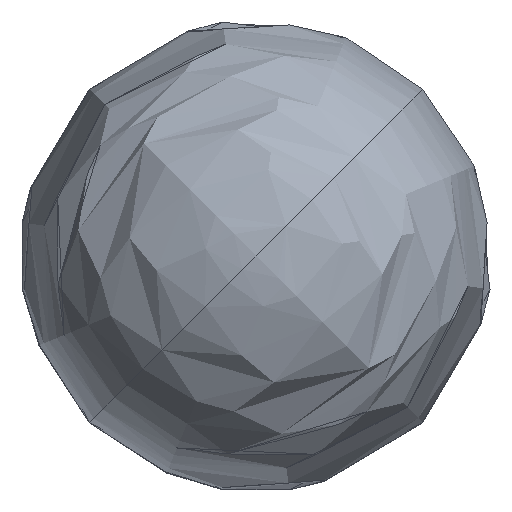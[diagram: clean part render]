
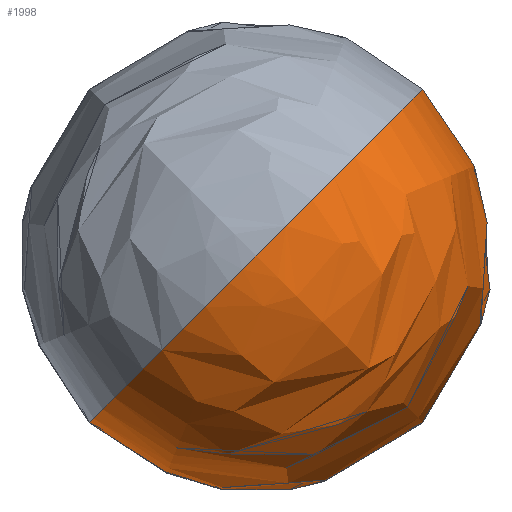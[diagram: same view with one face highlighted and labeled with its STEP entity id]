
A CAD part, front view. The second image highlights one B-rep face of the part: STEP entity #1998.
In plain terms, the highlighted free-form (B-spline) face has degree [3, 3] with [8, 4] control points.
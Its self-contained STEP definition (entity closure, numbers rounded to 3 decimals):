
#17 = B_SPLINE_CURVE_WITH_KNOTS ( 'NONE', 3,
 ( #2479, #2684, #163, #1583, #1500, #1539, #956, #1527 ),
 .UNSPECIFIED., .F., .F.,
 ( 4, 1, 1, 1, 1, 4 ),
 ( 0., 0.225, 0.267, 0.403, 0.478, 1. ),
 .UNSPECIFIED. ) ;
#69 =( BOUNDED_SURFACE ( )  B_SPLINE_SURFACE ( 3, 3, ( 
 ( #1852, #1253, #1113, #933 ),
 ( #1062, #813, #1257, #1078 ),
 ( #1674, #827, #1461, #954 ),
 ( #1066, #1005, #3028, #3027 ),
 ( #666, #681, #3322, #1167 ),
 ( #1180, #908, #977, #841 ),
 ( #3413, #3393, #349, #1858 ),
 ( #1090, #212, #413, #964 ) ),
 .UNSPECIFIED., .F., .F., .F. ) 
 B_SPLINE_SURFACE_WITH_KNOTS ( ( 4, 1, 1, 1, 1, 4 ),
 ( 4, 4 ),
 ( 0., 0.225, 0.267, 0.403, 0.478, 1. ),
 ( 0., 1. ),
 .UNSPECIFIED. ) 
 GEOMETRIC_REPRESENTATION_ITEM ( )  RATIONAL_B_SPLINE_SURFACE ( (
 ( 1., 0.333, 0.333, 1.),
 ( 1., 0.333, 0.333, 1.),
 ( 1., 0.333, 0.333, 1.),
 ( 1., 0.333, 0.333, 1.),
 ( 1., 0.333, 0.333, 1.),
 ( 1., 0.333, 0.333, 1.),
 ( 1., 0.333, 0.333, 1.),
 ( 1., 0.333, 0.333, 1.) ) ) 
 REPRESENTATION_ITEM ( '' )  SURFACE ( )  );
#105 = ORIENTED_EDGE ( 'NONE', *, *, #2629, .F. ) ;
#108 = CARTESIAN_POINT ( 'NONE',  ( -58.008, -2013.095, -58.008 ) ) ;
#163 = CARTESIAN_POINT ( 'NONE',  ( 46.388, -2080.434, 46.388 ) ) ;
#212 = CARTESIAN_POINT ( 'NONE',  ( 12.374, -1399., -37.123 ) ) ;
#349 = CARTESIAN_POINT ( 'NONE',  ( 37.123, -1711.185, -12.374 ) ) ;
#413 = CARTESIAN_POINT ( 'NONE',  ( 37.123, -1399., -12.374 ) ) ;
#496 = CARTESIAN_POINT ( 'NONE',  ( -46.388, -2080.434, -46.388 ) ) ;
#499 = CARTESIAN_POINT ( 'NONE',  ( -12.374, -1711.185, -12.374 ) ) ;
#651 = CARTESIAN_POINT ( 'NONE',  ( -12.374, -1399., -12.374 ) ) ;
#662 = CARTESIAN_POINT ( 'NONE',  ( -56.123, -1960.469, -56.123 ) ) ;
#666 = CARTESIAN_POINT ( 'NONE',  ( -56.123, -1960.469, -56.123 ) ) ;
#681 = CARTESIAN_POINT ( 'NONE',  ( 56.123, -1960.469, -168.368 ) ) ;
#682 = CARTESIAN_POINT ( 'NONE',  ( -41.673, -1825.568, -41.673 ) ) ;
#789 = CARTESIAN_POINT ( 'NONE',  ( -12.374, -1399., -12.374 ) ) ;
#812 = CARTESIAN_POINT ( 'NONE',  ( 0., -2099., 0. ) ) ;
#813 = CARTESIAN_POINT ( 'NONE',  ( 21.985, -2099., -65.955 ) ) ;
#820 = CARTESIAN_POINT ( 'NONE',  ( 0., -1399., -17.5 ) ) ;
#827 = CARTESIAN_POINT ( 'NONE',  ( 46.388, -2080.434, -139.163 ) ) ;
#841 = CARTESIAN_POINT ( 'NONE',  ( 41.673, -1825.568, 41.673 ) ) ;
#882 = CIRCLE ( 'NONE', #1013, 17.5 ) ;
#908 = CARTESIAN_POINT ( 'NONE',  ( 41.673, -1825.568, -125.018 ) ) ;
#933 = CARTESIAN_POINT ( 'NONE',  ( 0., -2099., 0. ) ) ;
#954 = CARTESIAN_POINT ( 'NONE',  ( 46.388, -2080.434, 46.388 ) ) ;
#956 = CARTESIAN_POINT ( 'NONE',  ( 12.374, -1711.185, 12.374 ) ) ;
#964 = CARTESIAN_POINT ( 'NONE',  ( 12.374, -1399., 12.374 ) ) ;
#977 = CARTESIAN_POINT ( 'NONE',  ( 125.018, -1825.568, -41.673 ) ) ;
#1005 = CARTESIAN_POINT ( 'NONE',  ( 58.008, -2013.095, -174.024 ) ) ;
#1013 = AXIS2_PLACEMENT_3D ( 'NONE', #1881, #1906, #2219 ) ;
#1053 = ORIENTED_EDGE ( 'NONE', *, *, #2423, .F. ) ;
#1062 = CARTESIAN_POINT ( 'NONE',  ( -21.985, -2099., -21.985 ) ) ;
#1066 = CARTESIAN_POINT ( 'NONE',  ( -58.008, -2013.095, -58.008 ) ) ;
#1078 = CARTESIAN_POINT ( 'NONE',  ( 21.985, -2099., 21.985 ) ) ;
#1090 = CARTESIAN_POINT ( 'NONE',  ( -12.374, -1399., -12.374 ) ) ;
#1113 = CARTESIAN_POINT ( 'NONE',  ( 0., -2099., 0. ) ) ;
#1167 = CARTESIAN_POINT ( 'NONE',  ( 56.123, -1960.469, 56.123 ) ) ;
#1180 = CARTESIAN_POINT ( 'NONE',  ( -41.673, -1825.568, -41.673 ) ) ;
#1253 = CARTESIAN_POINT ( 'NONE',  ( 0., -2099., 0. ) ) ;
#1257 = CARTESIAN_POINT ( 'NONE',  ( 65.955, -2099., -21.985 ) ) ;
#1379 = CIRCLE ( 'NONE', #3584, 17.5 ) ;
#1451 = FACE_OUTER_BOUND ( 'NONE', #1875, .T. ) ;
#1461 = CARTESIAN_POINT ( 'NONE',  ( 139.163, -2080.434, -46.388 ) ) ;
#1489 = B_SPLINE_CURVE_WITH_KNOTS ( 'NONE', 3,
 ( #789, #499, #682, #662, #108, #496, #3114, #3118 ),
 .UNSPECIFIED., .F., .F.,
 ( 4, 1, 1, 1, 1, 4 ),
 ( 0., 0.522, 0.597, 0.733, 0.775, 1. ),
 .UNSPECIFIED. ) ;
#1500 = CARTESIAN_POINT ( 'NONE',  ( 56.123, -1960.469, 56.123 ) ) ;
#1527 = CARTESIAN_POINT ( 'NONE',  ( 12.374, -1399., 12.374 ) ) ;
#1539 = CARTESIAN_POINT ( 'NONE',  ( 41.673, -1825.568, 41.673 ) ) ;
#1583 = CARTESIAN_POINT ( 'NONE',  ( 58.008, -2013.095, 58.008 ) ) ;
#1604 = VERTEX_POINT ( 'NONE', #651 ) ;
#1674 = CARTESIAN_POINT ( 'NONE',  ( -46.388, -2080.434, -46.388 ) ) ;
#1714 = VERTEX_POINT ( 'NONE', #2328 ) ;
#1852 = CARTESIAN_POINT ( 'NONE',  ( 0., -2099., 0. ) ) ;
#1858 = CARTESIAN_POINT ( 'NONE',  ( 12.374, -1711.185, 12.374 ) ) ;
#1875 = EDGE_LOOP ( 'NONE', ( #105, #2933, #3090, #1053 ) ) ;
#1881 = CARTESIAN_POINT ( 'NONE',  ( 0., -1399., 0. ) ) ;
#1906 = DIRECTION ( 'NONE',  ( 0., 1., 0. ) ) ;
#1998 = ADVANCED_FACE ( 'NONE', ( #1451 ), #69, .T. ) ;
#2213 = EDGE_CURVE ( 'NONE', #3412, #1714, #17, .T. ) ;
#2219 = DIRECTION ( 'NONE',  ( 0.707, 0., 0.707 ) ) ;
#2328 = CARTESIAN_POINT ( 'NONE',  ( 12.374, -1399., 12.374 ) ) ;
#2414 = DIRECTION ( 'NONE',  ( 0., 1., 0. ) ) ;
#2423 = EDGE_CURVE ( 'NONE', #3263, #1604, #882, .T. ) ;
#2479 = CARTESIAN_POINT ( 'NONE',  ( 0., -2099., 0. ) ) ;
#2547 = CARTESIAN_POINT ( 'NONE',  ( 0., -1399., 0. ) ) ;
#2629 = EDGE_CURVE ( 'NONE', #1714, #3263, #1379, .T. ) ;
#2684 = CARTESIAN_POINT ( 'NONE',  ( 21.985, -2099., 21.985 ) ) ;
#2720 = DIRECTION ( 'NONE',  ( 0.707, 0., 0.707 ) ) ;
#2894 = EDGE_CURVE ( 'NONE', #1604, #3412, #1489, .T. ) ;
#2933 = ORIENTED_EDGE ( 'NONE', *, *, #2213, .F. ) ;
#3027 = CARTESIAN_POINT ( 'NONE',  ( 58.008, -2013.095, 58.008 ) ) ;
#3028 = CARTESIAN_POINT ( 'NONE',  ( 174.024, -2013.095, -58.008 ) ) ;
#3090 = ORIENTED_EDGE ( 'NONE', *, *, #2894, .F. ) ;
#3114 = CARTESIAN_POINT ( 'NONE',  ( -21.985, -2099., -21.985 ) ) ;
#3118 = CARTESIAN_POINT ( 'NONE',  ( 0., -2099., 0. ) ) ;
#3263 = VERTEX_POINT ( 'NONE', #820 ) ;
#3322 = CARTESIAN_POINT ( 'NONE',  ( 168.368, -1960.469, -56.123 ) ) ;
#3393 = CARTESIAN_POINT ( 'NONE',  ( 12.374, -1711.185, -37.123 ) ) ;
#3412 = VERTEX_POINT ( 'NONE', #812 ) ;
#3413 = CARTESIAN_POINT ( 'NONE',  ( -12.374, -1711.185, -12.374 ) ) ;
#3584 = AXIS2_PLACEMENT_3D ( 'NONE', #2547, #2414, #2720 ) ;
